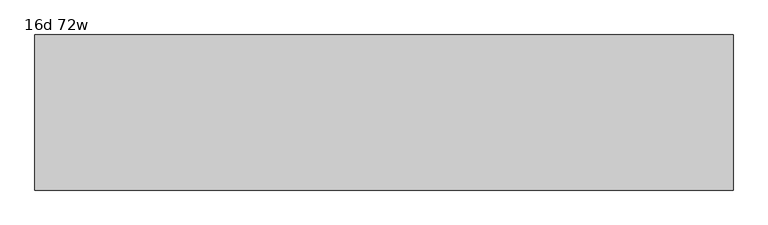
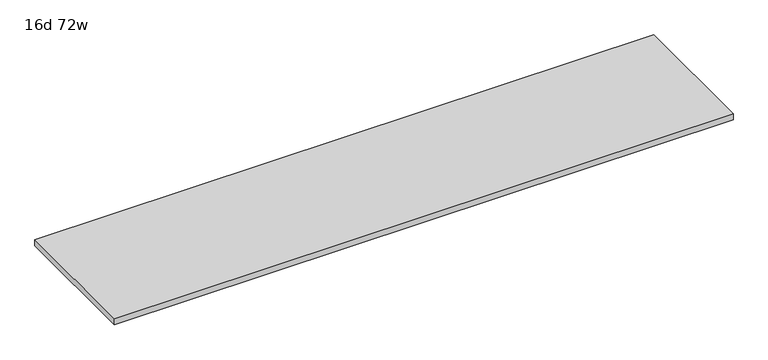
"""IFC4 building model written with IfcOpenShell, lengths in millimetres: furniture geometry, Haworth_BeHold_CommonTop : 16d 72w."""

from ifc_helpers import new_model, si_unit, frame, origin, place, context, project, spatial, polyline, outline, extrude, source, transform, mapped, element, save


def furniture_16d_72w_67b9409d(model_context):
    return source(origin(), model_context, "Body", "SweptSolid", [
        extrude(outline(polyline([(757.5408447, 88.9), (-1071.2591553, 88.9), (-1071.2591553, 495.3), (757.5408447, 495.3), (757.5408447, 88.9)])), frame((0.0, 0.0, 539.75), z_axis=(0.0, 0.0, 1.0), x_axis=(1.0, 0.0, 0.0)), (0.0, 0.0, 1.0), 19.05),
    ])


if __name__ == "__main__":
    model = new_model("IFC4")
    model_context = context("Model", 3, world=origin())
    ifc_project = project(units=[si_unit("LENGTHUNIT", "METRE", prefix="MILLI")], contexts=[model_context])
    site = spatial("IfcSite", under=ifc_project)
    building = spatial("IfcBuilding", under=site)
    placement = place(None, origin())
    furniture_16d_72w_shape = furniture_16d_72w_67b9409d(model_context)
    element("IfcFurniture", 1, ObjectType="Haworth_BeHold_CommonTop : 16d 72w", at=placement, inside=building, context=model_context, shape_type="MappedRepresentation", body=[
        mapped(furniture_16d_72w_shape, transform((0.0, 0.0, 0.0), x_axis=(1.0, 0.0, 0.0), y_axis=(0.0, 1.0, 0.0), z_axis=(0.0, 0.0, 1.0))),
    ])
    save(model, "model.ifc")
